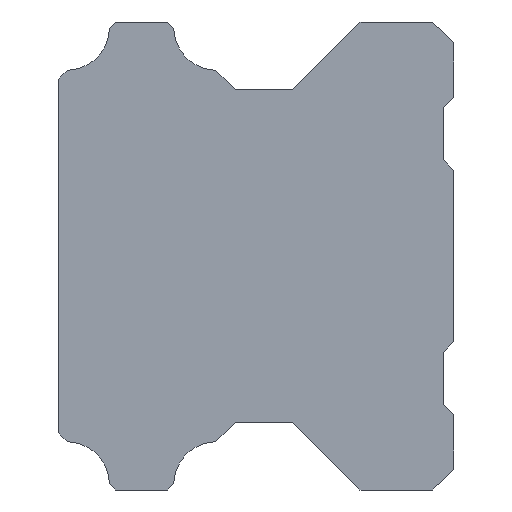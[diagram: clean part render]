
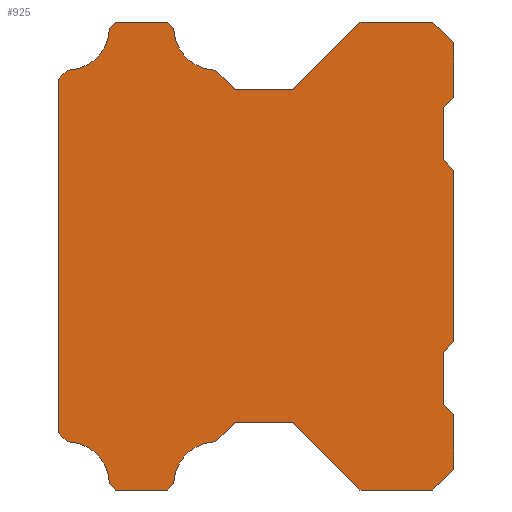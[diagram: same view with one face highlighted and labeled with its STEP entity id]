
A CAD part, left-side view. The second image highlights one B-rep face of the part: STEP entity #925.
In plain terms, the highlighted planar face has unit normal (-1, 0, 0).
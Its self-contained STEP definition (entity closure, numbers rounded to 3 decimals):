
#42=CIRCLE('',#980,4.13);
#44=CIRCLE('',#986,4.13);
#52=CIRCLE('',#998,4.13);
#54=CIRCLE('',#1004,4.13);
#240=ORIENTED_EDGE('',*,*,#308,.F.);
#241=ORIENTED_EDGE('',*,*,#414,.F.);
#242=ORIENTED_EDGE('',*,*,#411,.F.);
#243=ORIENTED_EDGE('',*,*,#408,.F.);
#244=ORIENTED_EDGE('',*,*,#405,.T.);
#245=ORIENTED_EDGE('',*,*,#402,.F.);
#246=ORIENTED_EDGE('',*,*,#399,.F.);
#247=ORIENTED_EDGE('',*,*,#396,.F.);
#248=ORIENTED_EDGE('',*,*,#393,.T.);
#249=ORIENTED_EDGE('',*,*,#390,.F.);
#250=ORIENTED_EDGE('',*,*,#387,.F.);
#251=ORIENTED_EDGE('',*,*,#378,.F.);
#252=ORIENTED_EDGE('',*,*,#375,.T.);
#253=ORIENTED_EDGE('',*,*,#372,.F.);
#254=ORIENTED_EDGE('',*,*,#369,.F.);
#255=ORIENTED_EDGE('',*,*,#366,.F.);
#256=ORIENTED_EDGE('',*,*,#363,.T.);
#257=ORIENTED_EDGE('',*,*,#360,.F.);
#258=ORIENTED_EDGE('',*,*,#357,.F.);
#259=ORIENTED_EDGE('',*,*,#354,.F.);
#260=ORIENTED_EDGE('',*,*,#351,.F.);
#261=ORIENTED_EDGE('',*,*,#348,.F.);
#262=ORIENTED_EDGE('',*,*,#345,.F.);
#263=ORIENTED_EDGE('',*,*,#342,.F.);
#264=ORIENTED_EDGE('',*,*,#339,.F.);
#265=ORIENTED_EDGE('',*,*,#336,.F.);
#266=ORIENTED_EDGE('',*,*,#333,.F.);
#267=ORIENTED_EDGE('',*,*,#324,.F.);
#268=ORIENTED_EDGE('',*,*,#321,.F.);
#269=ORIENTED_EDGE('',*,*,#318,.F.);
#270=ORIENTED_EDGE('',*,*,#315,.F.);
#271=ORIENTED_EDGE('',*,*,#312,.F.);
#308=EDGE_CURVE('',#428,#429,#516,.T.);
#312=EDGE_CURVE('',#429,#432,#520,.T.);
#315=EDGE_CURVE('',#432,#434,#523,.T.);
#318=EDGE_CURVE('',#434,#436,#526,.T.);
#321=EDGE_CURVE('',#436,#438,#529,.T.);
#324=EDGE_CURVE('',#438,#440,#532,.T.);
#333=EDGE_CURVE('',#440,#448,#535,.T.);
#336=EDGE_CURVE('',#448,#450,#538,.T.);
#339=EDGE_CURVE('',#450,#452,#541,.T.);
#342=EDGE_CURVE('',#452,#454,#544,.T.);
#345=EDGE_CURVE('',#454,#456,#547,.T.);
#348=EDGE_CURVE('',#456,#458,#550,.T.);
#351=EDGE_CURVE('',#458,#460,#553,.T.);
#354=EDGE_CURVE('',#460,#462,#556,.T.);
#357=EDGE_CURVE('',#462,#464,#559,.T.);
#360=EDGE_CURVE('',#464,#466,#562,.T.);
#363=EDGE_CURVE('',#468,#466,#42,.T.);
#366=EDGE_CURVE('',#468,#470,#566,.T.);
#369=EDGE_CURVE('',#470,#472,#569,.T.);
#372=EDGE_CURVE('',#472,#474,#572,.T.);
#375=EDGE_CURVE('',#476,#474,#44,.T.);
#378=EDGE_CURVE('',#476,#478,#576,.T.);
#387=EDGE_CURVE('',#478,#486,#579,.T.);
#390=EDGE_CURVE('',#486,#488,#582,.T.);
#393=EDGE_CURVE('',#490,#488,#52,.T.);
#396=EDGE_CURVE('',#490,#492,#586,.T.);
#399=EDGE_CURVE('',#492,#494,#589,.T.);
#402=EDGE_CURVE('',#494,#496,#592,.T.);
#405=EDGE_CURVE('',#498,#496,#54,.T.);
#408=EDGE_CURVE('',#498,#500,#596,.T.);
#411=EDGE_CURVE('',#500,#502,#599,.T.);
#414=EDGE_CURVE('',#502,#428,#602,.T.);
#428=VERTEX_POINT('',#1302);
#429=VERTEX_POINT('',#1303);
#432=VERTEX_POINT('',#1311);
#434=VERTEX_POINT('',#1317);
#436=VERTEX_POINT('',#1323);
#438=VERTEX_POINT('',#1329);
#440=VERTEX_POINT('',#1335);
#448=VERTEX_POINT('',#1353);
#450=VERTEX_POINT('',#1359);
#452=VERTEX_POINT('',#1365);
#454=VERTEX_POINT('',#1371);
#456=VERTEX_POINT('',#1377);
#458=VERTEX_POINT('',#1383);
#460=VERTEX_POINT('',#1389);
#462=VERTEX_POINT('',#1395);
#464=VERTEX_POINT('',#1401);
#466=VERTEX_POINT('',#1407);
#468=VERTEX_POINT('',#1413);
#470=VERTEX_POINT('',#1419);
#472=VERTEX_POINT('',#1425);
#474=VERTEX_POINT('',#1431);
#476=VERTEX_POINT('',#1437);
#478=VERTEX_POINT('',#1443);
#486=VERTEX_POINT('',#1461);
#488=VERTEX_POINT('',#1467);
#490=VERTEX_POINT('',#1473);
#492=VERTEX_POINT('',#1479);
#494=VERTEX_POINT('',#1485);
#496=VERTEX_POINT('',#1491);
#498=VERTEX_POINT('',#1497);
#500=VERTEX_POINT('',#1503);
#502=VERTEX_POINT('',#1509);
#516=LINE('',#1301,#604);
#520=LINE('',#1310,#608);
#523=LINE('',#1316,#611);
#526=LINE('',#1322,#614);
#529=LINE('',#1328,#617);
#532=LINE('',#1334,#620);
#535=LINE('',#1352,#623);
#538=LINE('',#1358,#626);
#541=LINE('',#1364,#629);
#544=LINE('',#1370,#632);
#547=LINE('',#1376,#635);
#550=LINE('',#1382,#638);
#553=LINE('',#1388,#641);
#556=LINE('',#1394,#644);
#559=LINE('',#1400,#647);
#562=LINE('',#1406,#650);
#566=LINE('',#1418,#654);
#569=LINE('',#1424,#657);
#572=LINE('',#1430,#660);
#576=LINE('',#1442,#664);
#579=LINE('',#1460,#667);
#582=LINE('',#1466,#670);
#586=LINE('',#1478,#674);
#589=LINE('',#1484,#677);
#592=LINE('',#1490,#680);
#596=LINE('',#1502,#684);
#599=LINE('',#1508,#687);
#602=LINE('',#1514,#690);
#604=VECTOR('',#1045,1000.);
#608=VECTOR('',#1051,1000.);
#611=VECTOR('',#1056,1000.);
#614=VECTOR('',#1061,1000.);
#617=VECTOR('',#1066,1000.);
#620=VECTOR('',#1071,1000.);
#623=VECTOR('',#1088,1000.);
#626=VECTOR('',#1093,1000.);
#629=VECTOR('',#1098,1000.);
#632=VECTOR('',#1103,1000.);
#635=VECTOR('',#1108,1000.);
#638=VECTOR('',#1113,1000.);
#641=VECTOR('',#1118,1000.);
#644=VECTOR('',#1123,1000.);
#647=VECTOR('',#1128,1000.);
#650=VECTOR('',#1133,1000.);
#654=VECTOR('',#1145,1000.);
#657=VECTOR('',#1150,1000.);
#660=VECTOR('',#1155,1000.);
#664=VECTOR('',#1167,1000.);
#667=VECTOR('',#1184,1000.);
#670=VECTOR('',#1189,1000.);
#674=VECTOR('',#1201,1000.);
#677=VECTOR('',#1206,1000.);
#680=VECTOR('',#1211,1000.);
#684=VECTOR('',#1223,1000.);
#687=VECTOR('',#1228,1000.);
#690=VECTOR('',#1233,1000.);
#737=EDGE_LOOP('',(#240,#241,#242,#243,#244,#245,#246,#247,#248,#249,#250,
#251,#252,#253,#254,#255,#256,#257,#258,#259,#260,#261,#262,#263,#264,#265,
#266,#267,#268,#269,#270,#271));
#819=FACE_BOUND('',#737,.T.);
#885=PLANE('',#1010);
#925=ADVANCED_FACE('',(#819),#885,.F.);
#980=AXIS2_PLACEMENT_3D('',#1412,#1138,#1139);
#986=AXIS2_PLACEMENT_3D('',#1436,#1160,#1161);
#998=AXIS2_PLACEMENT_3D('',#1472,#1194,#1195);
#1004=AXIS2_PLACEMENT_3D('',#1496,#1216,#1217);
#1010=AXIS2_PLACEMENT_3D('',#1517,#1237,#1238);
#1045=DIRECTION('',(0.,-1.,0.));
#1051=DIRECTION('',(0.,-0.707,-0.707));
#1056=DIRECTION('',(0.,0.,-1.));
#1061=DIRECTION('',(0.,0.707,-0.707));
#1066=DIRECTION('',(0.,0.,-1.));
#1071=DIRECTION('',(0.,-0.707,-0.707));
#1088=DIRECTION('',(0.,0.,-1.));
#1093=DIRECTION('',(0.,0.707,-0.707));
#1098=DIRECTION('',(0.,0.,-1.));
#1103=DIRECTION('',(0.,-0.707,-0.707));
#1108=DIRECTION('',(0.,0.,-1.));
#1113=DIRECTION('',(0.,0.707,-0.707));
#1118=DIRECTION('',(0.,1.,0.));
#1123=DIRECTION('',(0.,0.707,0.707));
#1128=DIRECTION('',(0.,1.,0.));
#1133=DIRECTION('',(0.,0.707,-0.707));
#1138=DIRECTION('',(1.,0.,0.));
#1139=DIRECTION('',(0.,0.,-1.));
#1145=DIRECTION('',(0.,0.707,-0.707));
#1150=DIRECTION('',(0.,1.,0.));
#1155=DIRECTION('',(0.,0.707,0.707));
#1160=DIRECTION('',(1.,0.,0.));
#1161=DIRECTION('',(0.,0.,-1.));
#1167=DIRECTION('',(0.,0.707,0.707));
#1184=DIRECTION('',(0.,0.,1.));
#1189=DIRECTION('',(0.,-0.707,0.707));
#1194=DIRECTION('',(1.,0.,0.));
#1195=DIRECTION('',(0.,0.,-1.));
#1201=DIRECTION('',(0.,-0.707,0.707));
#1206=DIRECTION('',(0.,-1.,0.));
#1211=DIRECTION('',(0.,-0.707,-0.707));
#1216=DIRECTION('',(1.,0.,0.));
#1217=DIRECTION('',(0.,0.,-1.));
#1223=DIRECTION('',(0.,-0.707,-0.707));
#1228=DIRECTION('',(0.,-1.,0.));
#1233=DIRECTION('',(0.,-0.707,0.707));
#1237=DIRECTION('',(1.,0.,0.));
#1238=DIRECTION('',(0.,0.,-1.));
#1301=CARTESIAN_POINT('',(-22.5,9.001,22.5));
#1302=CARTESIAN_POINT('',(-22.5,9.001,22.5));
#1303=CARTESIAN_POINT('',(-22.5,2.,22.5));
#1310=CARTESIAN_POINT('',(-22.5,2.,22.5));
#1311=CARTESIAN_POINT('',(-22.5,0.,20.5));
#1316=CARTESIAN_POINT('',(-22.5,0.,20.5));
#1317=CARTESIAN_POINT('',(-22.5,0.,15.25));
#1322=CARTESIAN_POINT('',(-22.5,0.,15.25));
#1323=CARTESIAN_POINT('',(-22.5,1.,14.25));
#1328=CARTESIAN_POINT('',(-22.5,1.,14.25));
#1329=CARTESIAN_POINT('',(-22.5,1.,9.25));
#1334=CARTESIAN_POINT('',(-22.5,1.,9.25));
#1335=CARTESIAN_POINT('',(-22.5,0.,8.25));
#1352=CARTESIAN_POINT('',(-22.5,0.,8.25));
#1353=CARTESIAN_POINT('',(-22.5,0.,-8.25));
#1358=CARTESIAN_POINT('',(-22.5,0.,-8.25));
#1359=CARTESIAN_POINT('',(-22.5,1.,-9.25));
#1364=CARTESIAN_POINT('',(-22.5,1.,-9.25));
#1365=CARTESIAN_POINT('',(-22.5,1.,-14.25));
#1370=CARTESIAN_POINT('',(-22.5,1.,-14.25));
#1371=CARTESIAN_POINT('',(-22.5,0.,-15.25));
#1376=CARTESIAN_POINT('',(-22.5,0.,-15.25));
#1377=CARTESIAN_POINT('',(-22.5,0.,-20.5));
#1382=CARTESIAN_POINT('',(-22.5,0.,-20.5));
#1383=CARTESIAN_POINT('',(-22.5,2.,-22.5));
#1388=CARTESIAN_POINT('',(-22.5,2.,-22.5));
#1389=CARTESIAN_POINT('',(-22.5,9.001,-22.5));
#1394=CARTESIAN_POINT('',(-22.5,9.001,-22.5));
#1395=CARTESIAN_POINT('',(-22.5,15.501,-16.));
#1400=CARTESIAN_POINT('',(-22.5,15.501,-16.));
#1401=CARTESIAN_POINT('',(-22.5,20.998,-16.));
#1406=CARTESIAN_POINT('',(-22.5,20.998,-16.));
#1407=CARTESIAN_POINT('',(-22.5,22.857,-17.86));
#1412=CARTESIAN_POINT('',(-22.5,22.779,-21.989));
#1413=CARTESIAN_POINT('',(-22.5,26.908,-21.91));
#1418=CARTESIAN_POINT('',(-22.5,26.908,-21.91));
#1419=CARTESIAN_POINT('',(-22.5,27.498,-22.5));
#1424=CARTESIAN_POINT('',(-22.5,27.498,-22.5));
#1425=CARTESIAN_POINT('',(-22.5,32.501,-22.5));
#1430=CARTESIAN_POINT('',(-22.5,32.501,-22.5));
#1431=CARTESIAN_POINT('',(-22.5,33.093,-21.908));
#1436=CARTESIAN_POINT('',(-22.5,37.222,-21.989));
#1437=CARTESIAN_POINT('',(-22.5,37.141,-17.86));
#1442=CARTESIAN_POINT('',(-22.5,37.141,-17.86));
#1443=CARTESIAN_POINT('',(-22.5,38.,-17.001));
#1460=CARTESIAN_POINT('',(-22.5,38.,-17.001));
#1461=CARTESIAN_POINT('',(-22.5,38.,17.001));
#1466=CARTESIAN_POINT('',(-22.5,38.,17.001));
#1467=CARTESIAN_POINT('',(-22.5,37.141,17.86));
#1472=CARTESIAN_POINT('',(-22.5,37.222,21.989));
#1473=CARTESIAN_POINT('',(-22.5,33.093,21.908));
#1478=CARTESIAN_POINT('',(-22.5,33.093,21.908));
#1479=CARTESIAN_POINT('',(-22.5,32.501,22.5));
#1484=CARTESIAN_POINT('',(-22.5,32.501,22.5));
#1485=CARTESIAN_POINT('',(-22.5,27.498,22.5));
#1490=CARTESIAN_POINT('',(-22.5,27.498,22.5));
#1491=CARTESIAN_POINT('',(-22.5,26.908,21.91));
#1496=CARTESIAN_POINT('',(-22.5,22.779,21.989));
#1497=CARTESIAN_POINT('',(-22.5,22.857,17.86));
#1502=CARTESIAN_POINT('',(-22.5,22.857,17.86));
#1503=CARTESIAN_POINT('',(-22.5,20.998,16.));
#1508=CARTESIAN_POINT('',(-22.5,20.998,16.));
#1509=CARTESIAN_POINT('',(-22.5,15.501,16.));
#1514=CARTESIAN_POINT('',(-22.5,15.501,16.));
#1517=CARTESIAN_POINT('',(-22.5,22.779,-21.989));
